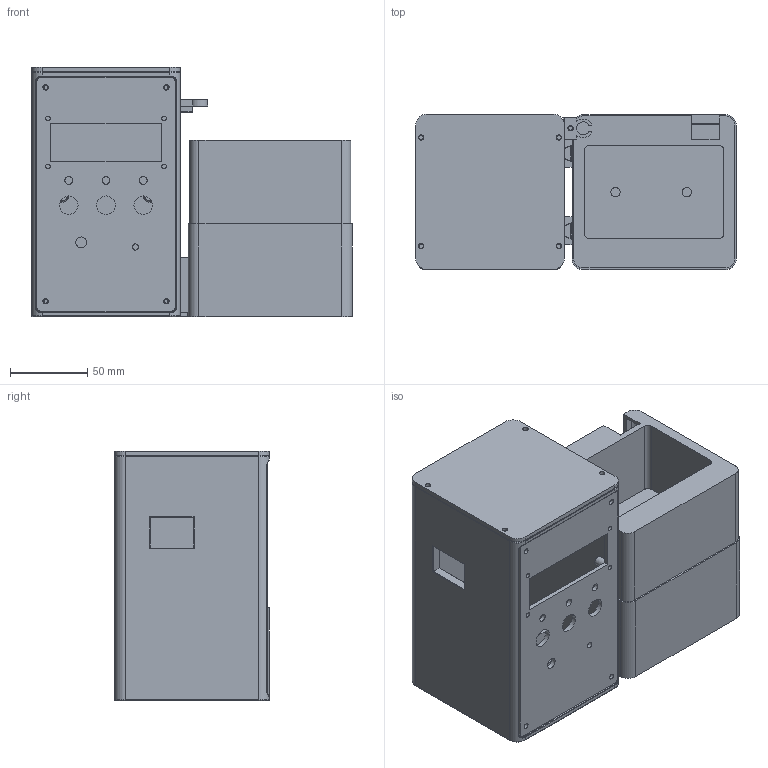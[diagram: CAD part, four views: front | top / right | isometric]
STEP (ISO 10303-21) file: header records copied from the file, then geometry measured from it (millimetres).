
FILE_DESCRIPTION(('Open CASCADE Model'),'2;1');
FILE_NAME('Open CASCADE Shape Model','2026-09-13T14:18:01',('Author'),( 'Open CASCADE'),'Open CASCADE STEP processor 7.9','Open CASCADE 7.9' ,'Unknown');
FILE_SCHEMA(('AUTOMOTIVE_DESIGN { 1 0 10303 214 1 1 1 1 }'));
Length unit declared in the file: millimetre
Products named in the file (8): Open CASCADE STEP translator 7.9 8; Open CASCADE STEP translator 7.9 8.1; Open CASCADE STEP translator 7.9 8.2; Open CASCADE STEP translator 7.9 8.3; Open CASCADE STEP translator 7.9 8.4; Open CASCADE STEP translator 7.9 8.5; Open CASCADE STEP translator 7.9 8.6; Open CASCADE STEP translator 7.9 8.7
Assembly tree (7 placements, depth 2):
  Open CASCADE STEP translator 7.9 8
    Open CASCADE STEP translator 7.9 8.1
    Open CASCADE STEP translator 7.9 8.2
    Open CASCADE STEP translator 7.9 8.3
    Open CASCADE STEP translator 7.9 8.4
    Open CASCADE STEP translator 7.9 8.5
    Open CASCADE STEP translator 7.9 8.6
    Open CASCADE STEP translator 7.9 8.7
Bounding box: 207 x 100 x 161 mm (x, y, z)
Volume: 730350.3 mm3; surface area: 329978.8 mm2
Topology: 7 solids, 7 shells, 386 faces, 937 edges, 600 vertices
Faces by surface type: plane 214, cylinder 140, torus 22, cone 6, bspline 4
Full cylindrical faces by diameter (mm): 2.8 x15, 3 x4, 3.4 x11, 4 x1, 5 x3, 5.4 x3, 6 x6, 7 x1, 8 x9, 10.4 x1, 12 x3, 14.4 x1
Entity records: 25184 total; most frequent: CARTESIAN_POINT 5980, DIRECTION 3599, LINE 1986, VECTOR 1986, ORIENTED_EDGE 1874, PCURVE 1874, DEFINITIONAL_REPRESENTATION 1874, EDGE_CURVE 937
